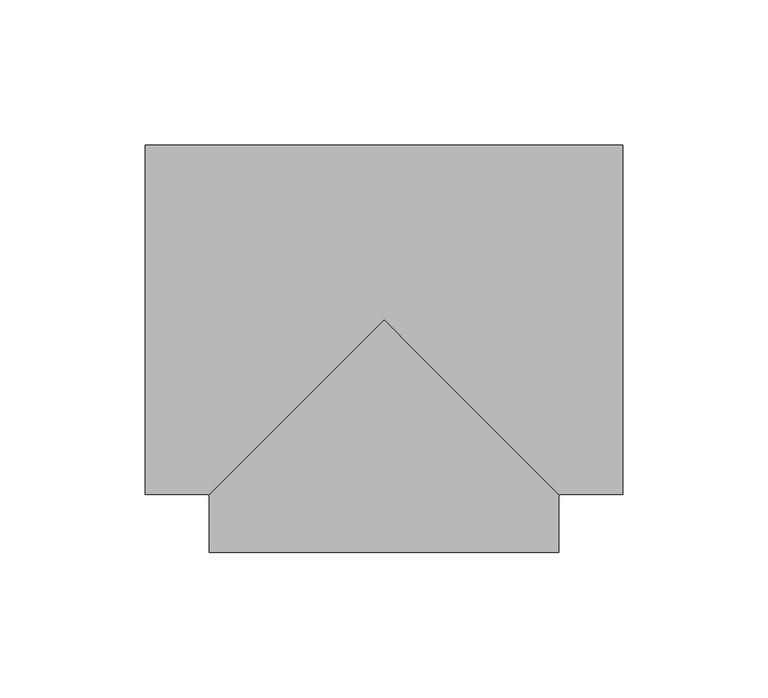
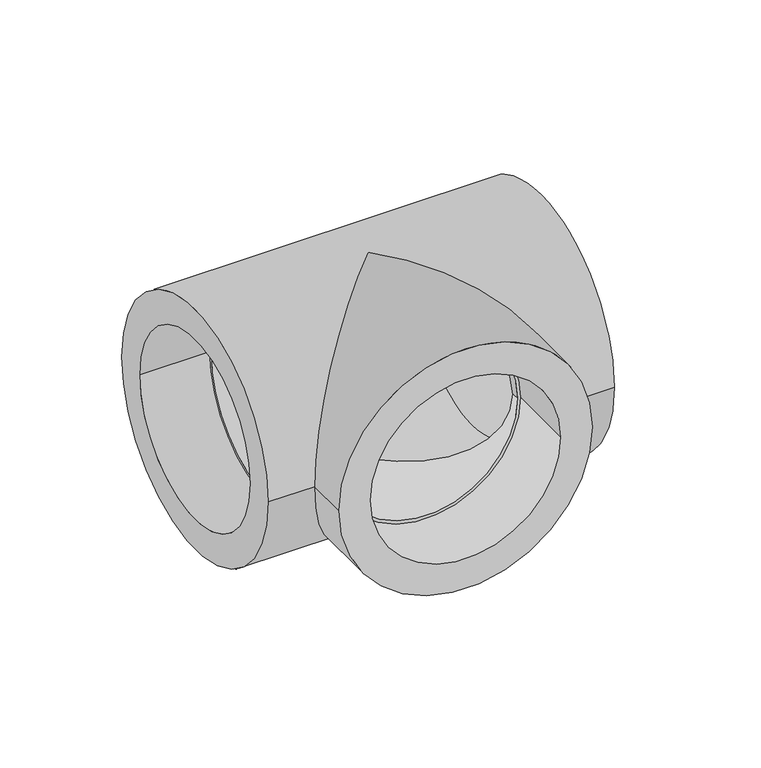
"""IFC4 building model written with IfcOpenShell, lengths in millimetres: pipe fitting geometry, 30_Тройник полипропиленовый : Серый цвет."""

import ifcopenshell
import ifcopenshell.guid

model = None  # the IFC model being written
_history = None  # IfcOwnerHistory: only IFC2X3 demands one
_inside = {}  # id of a spatial element -> (the spatial element, [elements in it])
_under = {}  # id of a project, library or spatial element -> (it, [spatial elements below it])
_declared = {}  # id of a project -> (the project, [libraries it declares])
_typed = {}  # id of a type object -> (the type object, [elements of that type])
_made_of = {}  # id of a material, layer set ... -> (it, [elements and type objects made of it])


def new_model(schema):
    """Start an empty IFC model of exactly this schema.

    Asked for "IFC4X3", IfcOpenShell would pick the latest addendum, in which some entities
    have other attributes; the version numbers below select the first issue.
    IFC2X3 requires an IfcOwnerHistory on every rooted entity: one is made here for all.
    """
    global model, _history
    if schema == "IFC4X3":
        model = ifcopenshell.file(schema_version=(4, 3, 0, 0))
    else:
        model = ifcopenshell.file(schema=schema)
    _inside.clear()
    _under.clear()
    _declared.clear()
    _typed.clear()
    _made_of.clear()
    _history = None
    if model.schema == "IFC2X3":
        org = make("IfcOrganization", Name="unknown")
        user = make(
            "IfcPersonAndOrganization",
            ThePerson=make("IfcPerson", FamilyName="unknown"),
            TheOrganization=org,
        )
        app = make(
            "IfcApplication",
            ApplicationDeveloper=org,
            Version="unknown",
            ApplicationFullName="unknown",
            ApplicationIdentifier="unknown",
        )
        _history = make(
            "IfcOwnerHistory",
            OwningUser=user,
            OwningApplication=app,
            ChangeAction="ADDED",
            CreationDate=0,
        )
    return model


def make(cls, **values):
    """One entity of the class cls with the attributes given. An attribute that is None is left unset."""
    return model.create_entity(
        cls, **{name: value for name, value in values.items() if value is not None}
    )


def rooted(cls, **values):
    """An entity with a GlobalId (a new one), such as an element, a storey or a relation."""
    return make(cls, GlobalId=ifcopenshell.guid.new(), OwnerHistory=_history, **values)


def si_unit(unit_type, name, prefix=None):
    """IfcSIUnit, for example si_unit("LENGTHUNIT", "METRE", prefix="MILLI")."""
    return make("IfcSIUnit", UnitType=unit_type, Prefix=prefix, Name=name)


def assignment(units):
    """IfcUnitAssignment: the units of a project."""
    return None if units is None else make("IfcUnitAssignment", Units=units)


def point(xyz):
    """IfcCartesianPoint."""
    return None if xyz is None else make("IfcCartesianPoint", Coordinates=xyz)


def direction(xyz):
    """IfcDirection."""
    return None if xyz is None else make("IfcDirection", DirectionRatios=xyz)


def frame(location, z_axis=None, x_axis=None):
    """IfcAxis2Placement3D, a coordinate frame: its origin and axes. An axis left out is left unset."""
    return make(
        "IfcAxis2Placement3D",
        Location=point(location),
        Axis=direction(z_axis),
        RefDirection=direction(x_axis),
    )


def origin():
    """The frame at (0, 0, 0) with its axes left unset."""
    return frame((0.0, 0.0, 0.0))


def place(relative_to, where):
    """IfcLocalPlacement: puts the frame where relative to a parent placement (None: the world)."""
    return make(
        "IfcLocalPlacement", PlacementRelTo=relative_to, RelativePlacement=where
    )


def context(
    kind, dimensions, precision=None, world=None, true_north=None, identifier=None
):
    """IfcGeometricRepresentationContext, for example the 3D "Model" context."""
    return make(
        "IfcGeometricRepresentationContext",
        ContextIdentifier=identifier,
        ContextType=kind,
        CoordinateSpaceDimension=dimensions,
        Precision=precision,
        WorldCoordinateSystem=world,
        TrueNorth=true_north,
    )


def project(units=None, contexts=None):
    """IfcProject with its units and contexts."""
    return rooted(
        "IfcProject",
        Name="project",
        RepresentationContexts=contexts,
        UnitsInContext=assignment(units),
    )


def spatial(cls, under=None, at=None, **own):
    """A site, building, storey or space (cls), placed at a placement, below another one or the project."""
    s = rooted(cls, ObjectPlacement=at, **own)
    if under is not None:
        _under.setdefault(under.id(), (under, []))[1].append(s)
    return s


def polyline(points):
    """IfcPolyline through the points."""
    return make("IfcPolyline", Points=[point(p) for p in points])


def circle_curve(where, radius):
    """IfcCircle in the frame where."""
    return make("IfcCircle", Position=where, Radius=radius)


def ellipse_curve(where, semi_axis1, semi_axis2):
    """IfcEllipse in the frame where."""
    return make(
        "IfcEllipse", Position=where, SemiAxis1=semi_axis1, SemiAxis2=semi_axis2
    )


def shape(context_of_items, identifier, shape_type, items):
    """IfcShapeRepresentation: the items that make up one representation, for example the "Body"."""
    return make(
        "IfcShapeRepresentation",
        ContextOfItems=context_of_items,
        RepresentationIdentifier=identifier,
        RepresentationType=shape_type,
        Items=items,
    )


def source(mapping_origin, context_of_items, identifier, shape_type, items):
    """IfcRepresentationMap: a shape defined once, which mapped items show again and again."""
    return make(
        "IfcRepresentationMap",
        MappingOrigin=mapping_origin,
        MappedRepresentation=shape(context_of_items, identifier, shape_type, items),
    )


def transform(
    local_origin,
    x_axis=None,
    y_axis=None,
    z_axis=None,
    scale=None,
    scale2=None,
    scale3=None,
    uniform=True,
):
    """IfcCartesianTransformationOperator3D, or its non-uniform kind. x_axis, y_axis, z_axis: its Axis1, 2, 3."""
    if uniform:
        return make(
            "IfcCartesianTransformationOperator3D",
            Axis1=direction(x_axis),
            Axis2=direction(y_axis),
            LocalOrigin=point(local_origin),
            Scale=scale,
            Axis3=direction(z_axis),
        )
    return make(
        "IfcCartesianTransformationOperator3DnonUniform",
        Axis1=direction(x_axis),
        Axis2=direction(y_axis),
        LocalOrigin=point(local_origin),
        Scale=scale,
        Axis3=direction(z_axis),
        Scale2=scale2,
        Scale3=scale3,
    )


def mapped(mapping_source, mapping_target):
    """IfcMappedItem: shows the shape of a source again, moved by a transform."""
    return make(
        "IfcMappedItem", MappingSource=mapping_source, MappingTarget=mapping_target
    )


def made_of(thing, what):
    """Note that an element or type object is made of a material, layer set ...; save() writes the relation."""
    if what is not None:
        _made_of.setdefault(what.id(), (what, []))[1].append(thing)
    return thing


def element(
    cls,
    number,
    at=None,
    inside=None,
    cuts=None,
    type_object=None,
    material=None,
    context=None,
    identifier="Body",
    shape_type=None,
    held_by="IfcProductDefinitionShape",
    body=None,
    shapes=None,
    **own,
):
    """One element of the class cls, such as IfcWall. Its Tag is "e" and its number.

    at: its placement. inside: the storey or other place that contains it. cuts: it is an
    opening in that element (IfcRelVoidsElement). A single representation is given by context,
    identifier, shape_type and body (its items); several are given by shapes. held_by: the class
    of the entity that holds the representations. save() writes the other relations.
    """
    e = rooted(cls, Tag="e%d" % number, ObjectPlacement=at, **own)
    if body is not None:
        shapes = [shape(context, identifier, shape_type, body)]
    if shapes is not None:
        e.Representation = make(held_by, Representations=shapes)
    if inside is not None:
        _inside.setdefault(inside.id(), (inside, []))[1].append(e)
    if cuts is not None:
        rooted(
            "IfcRelVoidsElement", RelatingBuildingElement=cuts, RelatedOpeningElement=e
        )
    if type_object is not None:
        _typed.setdefault(type_object.id(), (type_object, []))[1].append(e)
    return made_of(e, material)


def aggregate(whole, parts):
    """IfcRelAggregates: a whole, such as a stair, and the parts it consists of."""
    return rooted("IfcRelAggregates", RelatingObject=whole, RelatedObjects=parts)


def save(model, path):
    """Write the relations noted so far, then the file.

    IfcRelAggregates (storeys below a building ...), IfcRelContainedInSpatialStructure (elements
    in a storey), IfcRelDefinesByType, IfcRelAssociatesMaterial and IfcRelDeclares: one each for
    every whole, place, type object, material and project.
    """
    for whole, parts in _under.values():
        aggregate(whole, parts)
    for where, things in _inside.values():
        rooted(
            "IfcRelContainedInSpatialStructure",
            RelatedElements=things,
            RelatingStructure=where,
        )
    for kind, things in _typed.values():
        rooted("IfcRelDefinesByType", RelatedObjects=things, RelatingType=kind)
    for what, things in _made_of.values():
        rooted("IfcRelAssociatesMaterial", RelatedObjects=things, RelatingMaterial=what)
    for by, libraries in _declared.values():
        rooted("IfcRelDeclares", RelatingContext=by, RelatedDefinitions=libraries)
    model.write(path)


def plane_surface(at):
    """IfcPlane: the flat surface through the origin of the frame at, square to its z axis."""
    return make("IfcPlane", Position=at)


def cylinder_surface(at, radius):
    """IfcCylindricalSurface: all points at the distance radius from the z axis of the frame at."""
    return make("IfcCylindricalSurface", Position=at, Radius=radius)


def revolved_surface(curve, axis_point, axis_direction):
    """IfcSurfaceOfRevolution: the curve turned about the line through axis_point along axis_direction."""
    return make(
        "IfcSurfaceOfRevolution",
        SweptCurve=make("IfcArbitraryOpenProfileDef", ProfileType="CURVE", Curve=curve),
        AxisPosition=make("IfcAxis1Placement", Location=point(axis_point), Axis=direction(axis_direction)),
    )


def advanced_brep(points, edges, surfaces, faces):
    """IfcAdvancedBrep: a solid bounded by faces that lie on surfaces and meet in shared edges.

    An edge is (start, end): straight between two places in points (the first is 0);
    or (start, end, curve); or (start, end, curve, False) where it runs against its curve.
    A face is (place in surfaces, loops), or (place, loops, False) where it looks against
    its surface's normal. A loop lists edges by number (the first is 1), with a minus sign
    where the edge is run from its end to its start. The first loop is the outer one.
    """
    corners = [point(p) for p in points]
    vertices = [make("IfcVertexPoint", VertexGeometry=c) for c in corners]
    made = []
    for start, end, *more in edges:
        made.append(
            make(
                "IfcEdgeCurve",
                EdgeStart=vertices[start],
                EdgeEnd=vertices[end],
                EdgeGeometry=more[0] if more else make("IfcPolyline", Points=[corners[start], corners[end]]),
                SameSense=more[1] if len(more) > 1 else True,
            )
        )
    hull = []
    for where, loops, *sense in faces:
        bounds = []
        for j, loop in enumerate(loops):
            ring = [make("IfcOrientedEdge", EdgeElement=made[abs(k) - 1], Orientation=k > 0) for k in loop]
            bounds.append(
                make(
                    "IfcFaceOuterBound" if j == 0 else "IfcFaceBound",
                    Bound=make("IfcEdgeLoop", EdgeList=ring),
                    Orientation=True,
                )
            )
        hull.append(make("IfcAdvancedFace", Bounds=bounds, FaceSurface=surfaces[where], SameSense=sense[0] if sense else True))
    return make("IfcAdvancedBrep", Outer=make("IfcClosedShell", CfsFaces=hull))


def pipe_fitting_4b135bd3(model_context):
    return source(origin(), model_context, "Body", "AdvancedBrep", [
        advanced_brep(
        [(-82.0, -60.0, 0.0), (-82.0, 60.0, 0.0), (-82.0, -45.0, 0.0), (-82.0, 45.0, 0.0), (82.0, -60.0, 0.0), (82.0, 60.0, 0.0), (82.0, 45.0, 0.0), (82.0, -45.0, 0.0), (-60.0, -60.0, 0.0), (0.0, 0.0, 60.0), (60.0, -60.0, 0.0), (0.0, 0.0, -60.0), (-60.0, -80.0, 0.0), (60.0, -80.0, 0.0), (45.0, -80.0, 0.0), (-45.0, -80.0, 0.0), (-45.0, -47.0, 0.0), (45.0, -47.0, 0.0), (43.5, -47.0, 0.0), (-43.5, -47.0, 0.0), (49.0, -45.0, 0.0), (49.0, 45.0, 0.0), (49.0, 43.5, 0.0), (49.0, -43.5, 0.0), (-49.0, -45.0, 0.0), (-49.0, 45.0, 0.0), (-49.0, -43.5, 0.0), (-49.0, 43.5, 0.0), (-43.5, -43.5, 0.0), (0.0, 0.0, -43.5), (43.5, -43.5, 0.0), (0.0, 0.0, 43.5)],
        [
            (0, 1, circle_curve(frame((-82.0, 0.0, 0.0), z_axis=(-1.0, 0.0, 0.0), x_axis=(0.0, 1.0, 0.0)), 60.0)),
            (1, 0, circle_curve(frame((-82.0, 0.0, 0.0), z_axis=(-1.0, 0.0, 0.0), x_axis=(0.0, 1.0, 0.0)), 60.0)),
            (2, 3, circle_curve(frame((-82.0, 0.0, 0.0), z_axis=(1.0, 0.0, 0.0), x_axis=(0.0, 1.0, 0.0)), 45.0)),
            (3, 2, circle_curve(frame((-82.0, 0.0, 0.0), z_axis=(1.0, 0.0, 0.0), x_axis=(0.0, 1.0, 0.0)), 45.0)),
            (4, 5, circle_curve(frame((82.0, 0.0, 0.0), z_axis=(1.0, 0.0, 0.0), x_axis=(0.0, 1.0, 0.0)), 60.0)),
            (5, 4, circle_curve(frame((82.0, 0.0, 0.0), z_axis=(1.0, 0.0, 0.0), x_axis=(0.0, 1.0, 0.0)), 60.0)),
            (6, 7, circle_curve(frame((82.0, 0.0, 0.0), z_axis=(-1.0, 0.0, 0.0), x_axis=(0.0, 1.0, 0.0)), 45.0)),
            (7, 6, circle_curve(frame((82.0, 0.0, 0.0), z_axis=(-1.0, 0.0, 0.0), x_axis=(0.0, 1.0, 0.0)), 45.0)),
            (0, 8),
            (8, 9, ellipse_curve(frame((0.0, 0.0, 0.0), z_axis=(-0.707106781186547, 0.7071067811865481, 0.0), x_axis=(-0.707106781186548, -0.707106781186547, 0.0)), 84.8528137, 60.0)),
            (9, 10, ellipse_curve(frame((0.0, 0.0, 0.0), z_axis=(0.707106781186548, 0.7071067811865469, 0.0), x_axis=(-0.707106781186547, 0.707106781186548, 0.0)), 84.8528137, 60.0)),
            (10, 4),
            (5, 1),
            (10, 11, ellipse_curve(frame((0.0, 0.0, 0.0), z_axis=(0.707106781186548, 0.7071067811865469, 0.0), x_axis=(-0.707106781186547, 0.707106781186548, 0.0)), 84.8528137, 60.0)),
            (11, 8, ellipse_curve(frame((0.0, 0.0, 0.0), z_axis=(-0.707106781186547, 0.7071067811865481, 0.0), x_axis=(-0.707106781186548, -0.707106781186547, 0.0)), 84.8528137, 60.0)),
            (12, 13, circle_curve(frame((0.0, -80.0, 0.0), z_axis=(0.0, -1.0, 0.0), x_axis=(1.0, 0.0, 0.0)), 60.0)),
            (13, 12, circle_curve(frame((0.0, -80.0, 0.0), z_axis=(0.0, -1.0, 0.0), x_axis=(1.0, 0.0, 0.0)), 60.0)),
            (14, 15, circle_curve(frame((0.0, -80.0, 0.0), z_axis=(0.0, 1.0, 0.0), x_axis=(1.0, 0.0, 0.0)), 45.0)),
            (15, 14, circle_curve(frame((0.0, -80.0, 0.0), z_axis=(0.0, 1.0, 0.0), x_axis=(1.0, 0.0, 0.0)), 45.0)),
            (13, 10),
            (8, 12),
            (16, 17, circle_curve(frame((0.0, -47.0, 0.0), z_axis=(0.0, -1.0, 0.0), x_axis=(1.0, 0.0, 0.0)), 45.0)),
            (17, 16, circle_curve(frame((0.0, -47.0, 0.0), z_axis=(0.0, -1.0, 0.0), x_axis=(1.0, 0.0, 0.0)), 45.0)),
            (18, 19, circle_curve(frame((0.0, -47.0, 0.0), z_axis=(0.0, 1.0, 0.0), x_axis=(1.0, 0.0, 0.0)), 43.5)),
            (19, 18, circle_curve(frame((0.0, -47.0, 0.0), z_axis=(0.0, 1.0, 0.0), x_axis=(1.0, 0.0, 0.0)), 43.5)),
            (16, 15),
            (14, 17),
            (20, 21, circle_curve(frame((49.0, 0.0, 0.0), z_axis=(1.0, 0.0, 0.0), x_axis=(0.0, 1.0, 0.0)), 45.0)),
            (21, 20, circle_curve(frame((49.0, 0.0, 0.0), z_axis=(1.0, 0.0, 0.0), x_axis=(0.0, 1.0, 0.0)), 45.0)),
            (22, 23, circle_curve(frame((49.0, 0.0, 0.0), z_axis=(-1.0, 0.0, 0.0), x_axis=(0.0, 1.0, 0.0)), 43.5)),
            (23, 22, circle_curve(frame((49.0, 0.0, 0.0), z_axis=(-1.0, 0.0, 0.0), x_axis=(0.0, 1.0, 0.0)), 43.5)),
            (20, 7),
            (6, 21),
            (24, 25, circle_curve(frame((-49.0, 0.0, 0.0), z_axis=(-1.0, 0.0, 0.0), x_axis=(0.0, 1.0, 0.0)), 45.0)),
            (25, 24, circle_curve(frame((-49.0, 0.0, 0.0), z_axis=(-1.0, 0.0, 0.0), x_axis=(0.0, 1.0, 0.0)), 45.0)),
            (26, 27, circle_curve(frame((-49.0, 0.0, 0.0), z_axis=(1.0, 0.0, 0.0), x_axis=(0.0, 1.0, 0.0)), 43.5)),
            (27, 26, circle_curve(frame((-49.0, 0.0, 0.0), z_axis=(1.0, 0.0, 0.0), x_axis=(0.0, 1.0, 0.0)), 43.5)),
            (25, 3),
            (2, 24),
            (22, 27),
            (26, 28),
            (28, 29, ellipse_curve(frame((0.0, 0.0, 0.0), z_axis=(0.7071067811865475, -0.7071067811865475, 0.0), x_axis=(0.7071067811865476, 0.7071067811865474, 0.0)), 61.51829, 43.5)),
            (29, 30, ellipse_curve(frame((0.0, 0.0, 0.0), z_axis=(-0.7071067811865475, -0.7071067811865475, 0.0), x_axis=(0.7071067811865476, -0.7071067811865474, 0.0)), 61.51829, 43.5)),
            (30, 23),
            (30, 31, ellipse_curve(frame((0.0, 0.0, 0.0), z_axis=(-0.7071067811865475, -0.7071067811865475, 0.0), x_axis=(0.7071067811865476, -0.7071067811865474, 0.0)), 61.51829, 43.5)),
            (31, 28, ellipse_curve(frame((0.0, 0.0, 0.0), z_axis=(0.7071067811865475, -0.7071067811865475, 0.0), x_axis=(0.7071067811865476, 0.7071067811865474, 0.0)), 61.51829, 43.5)),
            (18, 30),
            (28, 19),
        ],
        [
            plane_surface(frame((-82.0, 0.0, 0.0), z_axis=(-1.0, 0.0, 0.0), x_axis=(0.0, 0.0, 1.0))),
            plane_surface(frame((82.0, 0.0, 0.0), z_axis=(1.0, 0.0, 0.0), x_axis=(0.0, 0.0, 1.0))),
            cylinder_surface(frame((-82.0, 0.0, 0.0), z_axis=(-1.0, 0.0, 0.0), x_axis=(0.0, 1.0, 0.0)), 60.0),
            plane_surface(frame((0.0, -80.0, 0.0), z_axis=(0.0, -1.0, 0.0), x_axis=(0.0, 0.0, 1.0))),
            cylinder_surface(frame((0.0, 0.0, 0.0), z_axis=(0.0, 1.0, 0.0), x_axis=(1.0, 0.0, 0.0)), 60.0),
            plane_surface(frame((45.0, -47.0, 0.0), z_axis=(0.0, -1.0, 0.0), x_axis=(0.0, 0.0, -1.0))),
            revolved_surface(polyline([(45.0, -80.0, 0.0), (45.0, -47.0, 0.0)]), (0.0, -47.0, 0.0), (0.0, -1.0, 0.0)),
            plane_surface(frame((49.0, 45.0, 0.0), z_axis=(1.0, 0.0, 0.0), x_axis=(0.0, 0.0, -1.0))),
            revolved_surface(polyline([(82.0, 45.0, 0.0), (49.0, 45.0, 0.0)]), (49.0, 0.0, 0.0), (1.0, 0.0, 0.0)),
            plane_surface(frame((-49.0, 45.0, 0.0), z_axis=(-1.0, 0.0, 0.0), x_axis=(0.0, 0.0, 1.0))),
            revolved_surface(polyline([(-82.0, 45.0, 0.0), (-49.0, 45.0, 0.0)]), (-49.0, 0.0, 0.0), (-1.0, 0.0, 0.0)),
            revolved_surface(polyline([(49.0, 43.5, 0.0), (-49.0, 43.5, 0.0)]), (-49.0, 0.0, 0.0), (1.0, 0.0, 0.0)),
            revolved_surface(polyline([(43.5, -47.0, 0.0), (43.5, 43.50000002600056, 0.0)]), (0.0, 0.0, 0.0), (0.0, -1.0, 0.0)),
        ],
        [
            (0, [[1, 2], [3, 4]]),
            (1, [[5, 6], [7, 8]]),
            (2, [[-1, 9, 10, 11, 12, -6, 13]]),
            (2, [[-2, -13, -5, -12, 14, 15, -9]]),
            (3, [[16, 17], [18, 19]]),
            (4, [[-17, 20, -11, -10, 21]]),
            (4, [[-16, -21, -15, -14, -20]]),
            (5, [[22, 23], [24, 25]]),
            (6, [[-22, 26, -18, 27]]),
            (6, [[-23, -27, -19, -26]]),
            (7, [[28, 29], [30, 31]]),
            (8, [[-28, 32, -7, 33]]),
            (8, [[-29, -33, -8, -32]]),
            (9, [[34, 35], [36, 37]]),
            (10, [[-35, 38, -3, 39]]),
            (10, [[-34, -39, -4, -38]]),
            (11, [[40, -36, 41, 42, 43, 44, -30]]),
            (11, [[-40, -31, -44, 45, 46, -41, -37]]),
            (12, [[47, -43, -42, 48, -24]]),
            (12, [[-47, -25, -48, -46, -45]]),
        ],
    ),
    ])


if __name__ == "__main__":
    model = new_model("IFC4")
    model_context = context("Model", 3, world=origin())
    ifc_project = project(units=[si_unit("LENGTHUNIT", "METRE", prefix="MILLI")], contexts=[model_context])
    site = spatial("IfcSite", under=ifc_project)
    building = spatial("IfcBuilding", under=site)
    placement = place(None, origin())
    pipe_fitting_shape = pipe_fitting_4b135bd3(model_context)
    element("IfcPipeFitting", 1, ObjectType="30_Тройник полипропиленовый : Серый цвет", at=placement, inside=building, context=model_context, shape_type="MappedRepresentation", body=[
        mapped(pipe_fitting_shape, transform((0.0, 0.0, 0.0), x_axis=(1.0, 0.0, 0.0), y_axis=(0.0, 1.0, 0.0), z_axis=(0.0, 0.0, 1.0))),
    ])
    save(model, "model.ifc")
